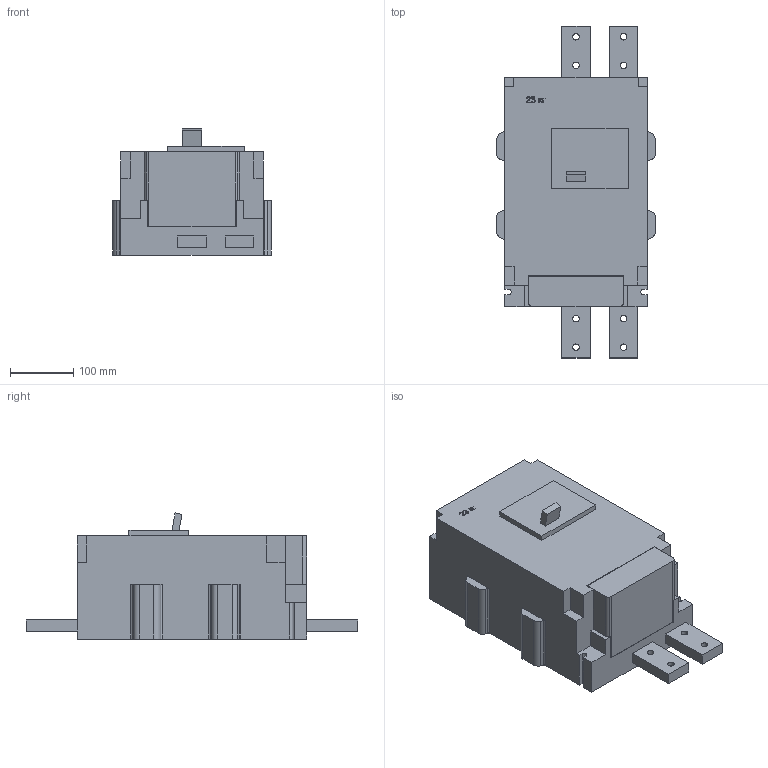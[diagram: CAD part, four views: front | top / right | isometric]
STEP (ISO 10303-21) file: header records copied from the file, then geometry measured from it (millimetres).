
FILE_DESCRIPTION (( 'STEP AP214' ), '1' );
FILE_NAME ('臍53(55)-41 DC.STEP', '2023-02-13T06:49:06', ( 'user' ), ( '' ), 'SwSTEP 2.0', 'SolidWorks 2018', '' );
FILE_SCHEMA (( 'AUTOMOTIVE_DESIGN' ));
Length unit declared in the file: millimetre
Products named in the file (1): 臍53(55)-41 DC
Bounding box: 250 x 523 x 198.64 mm (x, y, z)
Volume: 13424638 mm3; surface area: 489190.9 mm2
Topology: 5 solids, 5 shells, 146 faces, 426 edges, 302 vertices
Faces by surface type: plane 104, cylinder 38, bspline 4
Entity records: 5404 total; most frequent: CARTESIAN_POINT 1361, ORIENTED_EDGE 852, DIRECTION 748, EDGE_CURVE 426, VECTOR 310, LINE 310, VERTEX_POINT 302, AXIS2_PLACEMENT_3D 219
